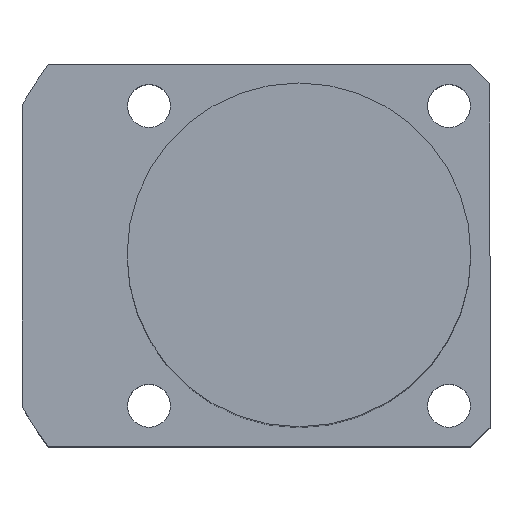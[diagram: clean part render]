
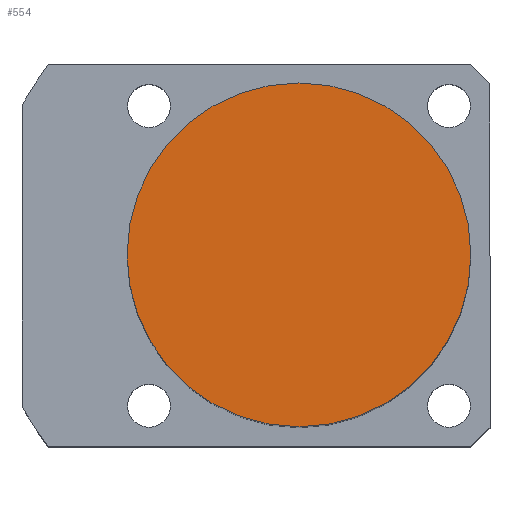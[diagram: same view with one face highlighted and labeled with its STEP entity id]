
A CAD part, top view. The second image highlights one B-rep face of the part: STEP entity #554.
In plain terms, the highlighted planar face has unit normal (0, 0, 1).
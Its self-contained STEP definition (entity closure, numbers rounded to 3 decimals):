
#51 = CARTESIAN_POINT ( 'NONE',  ( 18., 0., 68.5 ) ) ;
#158 = EDGE_LOOP ( 'NONE', ( #774, #1614 ) ) ;
#184 = EDGE_CURVE ( 'NONE', #1597, #656, #1260, .T. ) ;
#185 = DIRECTION ( 'NONE',  ( 1., 0., 0. ) ) ;
#204 = CARTESIAN_POINT ( 'NONE',  ( 0., 0., 68.5 ) ) ;
#242 = DIRECTION ( 'NONE',  ( 1., 0., 0. ) ) ;
#554 = ADVANCED_FACE ( 'NONE', ( #1562 ), #768, .T. ) ;
#602 = DIRECTION ( 'NONE',  ( 0., 0., 1. ) ) ;
#656 = VERTEX_POINT ( 'NONE', #51 ) ;
#768 = PLANE ( 'NONE',  #1739 ) ;
#774 = ORIENTED_EDGE ( 'NONE', *, *, #184, .T. ) ;
#852 = CIRCLE ( 'NONE', #1761, 18. ) ;
#989 = AXIS2_PLACEMENT_3D ( 'NONE', #1710, #1186, #242 ) ;
#1009 = EDGE_CURVE ( 'NONE', #656, #1597, #852, .T. ) ;
#1164 = DIRECTION ( 'NONE',  ( 0., 0., 1. ) ) ;
#1186 = DIRECTION ( 'NONE',  ( 0., 0., 1. ) ) ;
#1260 = CIRCLE ( 'NONE', #989, 18. ) ;
#1555 = DIRECTION ( 'NONE',  ( 1., 0., 0. ) ) ;
#1562 = FACE_OUTER_BOUND ( 'NONE', #158, .T. ) ;
#1597 = VERTEX_POINT ( 'NONE', #1626 ) ;
#1614 = ORIENTED_EDGE ( 'NONE', *, *, #1009, .T. ) ;
#1626 = CARTESIAN_POINT ( 'NONE',  ( -18., 0., 68.5 ) ) ;
#1707 = CARTESIAN_POINT ( 'NONE',  ( 0., 0., 68.5 ) ) ;
#1710 = CARTESIAN_POINT ( 'NONE',  ( 0., 0., 68.5 ) ) ;
#1739 = AXIS2_PLACEMENT_3D ( 'NONE', #1707, #602, #1555 ) ;
#1761 = AXIS2_PLACEMENT_3D ( 'NONE', #204, #1164, #185 ) ;
